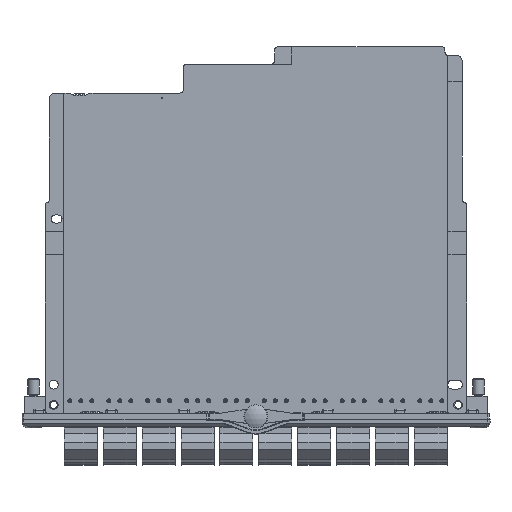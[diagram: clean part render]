
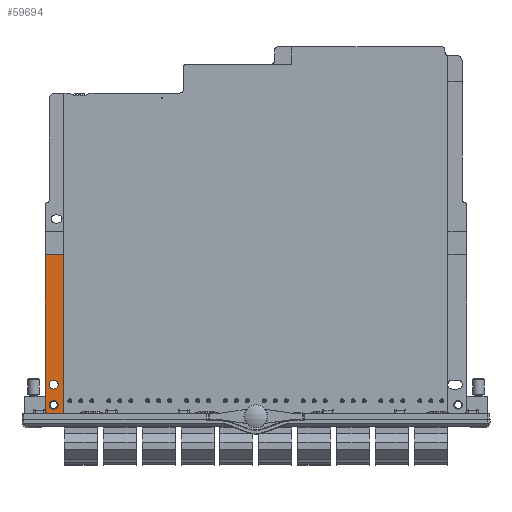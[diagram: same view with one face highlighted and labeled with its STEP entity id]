
A CAD part, front view. The second image highlights one B-rep face of the part: STEP entity #59694.
In plain terms, the highlighted planar face has unit normal (0, -1, 0).
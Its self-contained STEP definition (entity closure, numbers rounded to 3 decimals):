
#1851=LINE('',#81820,#7530);
#7345=LINE('',#102609,#13024);
#7359=LINE('',#102640,#13038);
#7360=LINE('',#102642,#13039);
#7530=VECTOR('',#65512,10.);
#13024=VECTOR('',#81090,10.);
#13038=VECTOR('',#81118,10.);
#13039=VECTOR('',#81121,10.);
#13451=FACE_BOUND('',#20052,.T.);
#13452=FACE_BOUND('',#20053,.T.);
#16596=FACE_OUTER_BOUND('',#20051,.T.);
#20051=EDGE_LOOP('',(#51198,#51199,#51200,#51201,#51202));
#20052=EDGE_LOOP('',(#51203));
#20053=EDGE_LOOP('',(#51204));
#21981=CIRCLE('',#64955,1.525);
#21989=CIRCLE('',#64989,1.);
#21990=CIRCLE('',#64990,1.525);
#22185=VERTEX_POINT('',#81817);
#22186=VERTEX_POINT('',#81819);
#26982=VERTEX_POINT('',#102500);
#27015=VERTEX_POINT('',#102607);
#27016=VERTEX_POINT('',#102608);
#27026=VERTEX_POINT('',#102639);
#27027=VERTEX_POINT('',#102643);
#27292=EDGE_CURVE('',#22185,#22186,#1851,.T.);
#35044=EDGE_CURVE('',#26982,#26982,#21981,.T.);
#35096=EDGE_CURVE('',#27015,#27016,#7345,.T.);
#35112=EDGE_CURVE('',#27026,#27016,#7359,.T.);
#35113=EDGE_CURVE('',#22186,#27026,#21989,.T.);
#35114=EDGE_CURVE('',#27015,#22185,#7360,.T.);
#35115=EDGE_CURVE('',#27027,#27027,#21990,.T.);
#51198=ORIENTED_EDGE('',*,*,#35096,.T.);
#51199=ORIENTED_EDGE('',*,*,#35112,.F.);
#51200=ORIENTED_EDGE('',*,*,#35113,.F.);
#51201=ORIENTED_EDGE('',*,*,#27292,.F.);
#51202=ORIENTED_EDGE('',*,*,#35114,.F.);
#51203=ORIENTED_EDGE('',*,*,#35044,.T.);
#51204=ORIENTED_EDGE('',*,*,#35115,.F.);
#53341=PLANE('',#64988);
#59694=ADVANCED_FACE('',(#16596,#13451,#13452),#53341,.T.);
#64955=AXIS2_PLACEMENT_3D('',#102502,#80990,#80991);
#64988=AXIS2_PLACEMENT_3D('',#102638,#81116,#81117);
#64989=AXIS2_PLACEMENT_3D('',#102641,#81119,#81120);
#64990=AXIS2_PLACEMENT_3D('',#102644,#81122,#81123);
#65512=DIRECTION('',(-1.,0.,0.));
#80990=DIRECTION('center_axis',(0.,1.,0.));
#80991=DIRECTION('ref_axis',(1.,0.,0.));
#81090=DIRECTION('',(-1.,0.,0.));
#81116=DIRECTION('center_axis',(0.,-1.,0.));
#81117=DIRECTION('ref_axis',(0.,0.,-1.));
#81118=DIRECTION('',(0.,0.,1.));
#81119=DIRECTION('center_axis',(0.,1.,0.));
#81120=DIRECTION('ref_axis',(-0.707,0.,-0.707));
#81121=DIRECTION('',(0.,0.,-1.));
#81122=DIRECTION('center_axis',(0.,-1.,0.));
#81123=DIRECTION('ref_axis',(-1.,0.,0.));
#81817=CARTESIAN_POINT('',(-66.5,-1.55,0.));
#81819=CARTESIAN_POINT('',(-72.,-1.55,0.));
#81820=CARTESIAN_POINT('',(-34.733,-1.55,0.));
#102500=CARTESIAN_POINT('',(-71.525,-1.55,10.));
#102502=CARTESIAN_POINT('Origin',(-70.,-1.55,10.));
#102607=CARTESIAN_POINT('',(-66.5,-1.55,55.));
#102608=CARTESIAN_POINT('',(-73.,-1.55,55.));
#102609=CARTESIAN_POINT('',(-71.233,-1.55,55.));
#102638=CARTESIAN_POINT('Origin',(-69.465,-1.55,54.941));
#102639=CARTESIAN_POINT('',(-73.,-1.55,1.));
#102640=CARTESIAN_POINT('',(-73.,-1.55,27.47));
#102641=CARTESIAN_POINT('Origin',(-72.,-1.55,1.));
#102642=CARTESIAN_POINT('',(-66.5,-1.55,111.));
#102643=CARTESIAN_POINT('',(-68.475,-1.55,3.));
#102644=CARTESIAN_POINT('Origin',(-70.,-1.55,3.));
